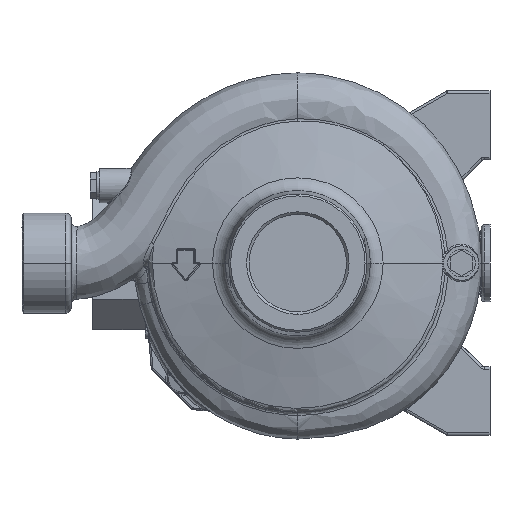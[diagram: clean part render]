
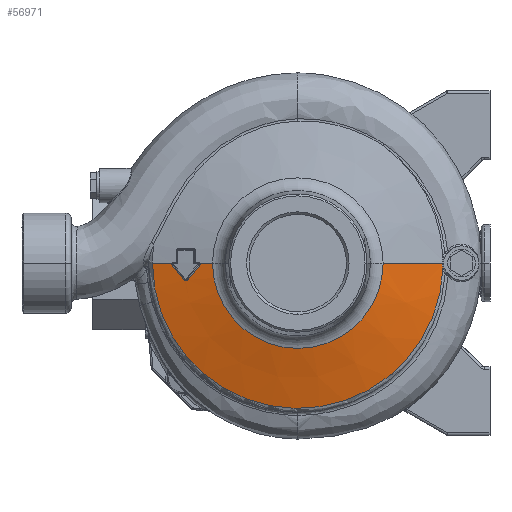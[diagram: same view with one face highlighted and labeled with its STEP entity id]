
A CAD part, left-side view. The second image highlights one B-rep face of the part: STEP entity #56971.
In plain terms, the highlighted conical face has half-angle 75 degrees and reference radius 66.878 mm.
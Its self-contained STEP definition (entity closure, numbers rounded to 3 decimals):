
#45698=CARTESIAN_POINT('',(0.,-83.741,
15.46));
#45699=CARTESIAN_POINT('',(-0.545,-83.741,
15.46));
#45700=CARTESIAN_POINT('',(-1.619,-83.822,
15.435));
#45701=CARTESIAN_POINT('',(-2.667,-84.058,
15.364));
#45702=CARTESIAN_POINT('',(-3.187,-84.216,
15.316));
#45704=CARTESIAN_POINT('',(0.,0.,15.316));
#45705=DIRECTION('',(0.,0.,1.));
#45706=DIRECTION('',(0.,1.,0.));
#45707=AXIS2_PLACEMENT_3D('',#45704,#45705,#45706);
#45709=DIRECTION('',(0.,-0.966,0.259));
#45710=VECTOR('',#45709,11.617);
#45711=CARTESIAN_POINT('',(0.,84.276,
15.316));
#45712=LINE('',#45711,#45710);
#45713=CARTESIAN_POINT('',(0.,73.055,
18.323));
#45714=CARTESIAN_POINT('',(-0.059,73.09,
18.314));
#45715=CARTESIAN_POINT('',(-0.182,73.145,
18.299));
#45716=CARTESIAN_POINT('',(-0.384,73.19,
18.287));
#45717=CARTESIAN_POINT('',(-0.589,73.192,
18.285));
#45718=CARTESIAN_POINT('',(-0.791,73.153,
18.295));
#45719=CARTESIAN_POINT('',(-0.979,73.074,
18.316));
#45720=CARTESIAN_POINT('',(-1.089,72.999,
18.336));
#45721=CARTESIAN_POINT('',(-1.141,72.955,
18.347));
#45723=CARTESIAN_POINT('',(-1.141,72.955,
18.347));
#45724=CARTESIAN_POINT('',(-2.147,72.11,
18.57));
#45725=CARTESIAN_POINT('',(-4.131,70.442,
18.997));
#45726=CARTESIAN_POINT('',(-7.03,68.005,
19.585));
#45727=CARTESIAN_POINT('',(-8.914,66.421,
19.943));
#45728=CARTESIAN_POINT('',(-9.846,65.638,
20.113));
#45730=CARTESIAN_POINT('',(-9.846,65.638,
20.113));
#45731=CARTESIAN_POINT('',(-9.9,65.593,
20.123));
#45732=CARTESIAN_POINT('',(-9.997,65.492,
20.146));
#45733=CARTESIAN_POINT('',(-10.115,65.302,
20.192));
#45734=CARTESIAN_POINT('',(-10.187,65.089,
20.245));
#45735=CARTESIAN_POINT('',(-10.21,64.868,
20.303));
#45736=CARTESIAN_POINT('',(-10.185,64.649,
20.361));
#45737=CARTESIAN_POINT('',(-10.114,64.442,
20.419));
#45738=CARTESIAN_POINT('',(-9.999,64.256,
20.473));
#45739=CARTESIAN_POINT('',(-9.901,64.153,
20.505));
#45740=CARTESIAN_POINT('',(-9.845,64.106,
20.519));
#45742=CARTESIAN_POINT('',(-9.845,64.106,
20.519));
#45743=CARTESIAN_POINT('',(-8.806,63.232,
20.793));
#45744=CARTESIAN_POINT('',(-6.778,61.527,
21.317));
#45745=CARTESIAN_POINT('',(-3.891,59.099,
22.033));
#45746=CARTESIAN_POINT('',(-2.044,57.546,
22.471));
#45747=CARTESIAN_POINT('',(-1.14,56.786,
22.679));
#45749=CARTESIAN_POINT('',(-1.14,56.786,
22.679));
#45750=CARTESIAN_POINT('',(-1.088,56.742,
22.691));
#45751=CARTESIAN_POINT('',(-0.978,56.667,
22.712));
#45752=CARTESIAN_POINT('',(-0.789,56.588,
22.734));
#45753=CARTESIAN_POINT('',(-0.588,56.549,
22.745));
#45754=CARTESIAN_POINT('',(-0.382,56.552,
22.745));
#45755=CARTESIAN_POINT('',(-0.182,56.596,
22.733));
#45756=CARTESIAN_POINT('',(-0.059,56.652,
22.718));
#45757=CARTESIAN_POINT('',(0.,56.686,
22.709));
#45759=DIRECTION('',(0.,-0.966,0.259));
#45760=VECTOR('',#45759,7.46);
#45761=CARTESIAN_POINT('',(0.,56.686,
22.709));
#45762=LINE('',#45761,#45760);
#45763=CARTESIAN_POINT('',(0.,0.,24.64));
#45764=DIRECTION('',(0.,0.,-1.));
#45765=DIRECTION('',(0.,-1.,0.));
#45766=AXIS2_PLACEMENT_3D('',#45763,#45764,#45765);
#45772=CARTESIAN_POINT('',(0.,-83.741,
15.46));
#45774=DIRECTION('',(0.,0.966,0.259));
#45775=VECTOR('',#45774,35.47);
#45776=CARTESIAN_POINT('',(0.,-83.741,
15.46));
#45777=LINE('',#45776,#45775);
#45855=CARTESIAN_POINT('',(0.,73.055,
18.323));
#47954=CARTESIAN_POINT('',(0.,-49.48,24.64));
#47955=CARTESIAN_POINT('',(0.,49.48,24.64));
#47956=VERTEX_POINT('',#47954);
#47957=VERTEX_POINT('',#47955);
#48026=VERTEX_POINT('',#45749);
#48027=VERTEX_POINT('',#45757);
#48052=VERTEX_POINT('',#45855);
#48054=VERTEX_POINT('',#45721);
#48056=VERTEX_POINT('',#45728);
#48058=VERTEX_POINT('',#45740);
#48060=CARTESIAN_POINT('',(0.,84.276,
15.316));
#48061=VERTEX_POINT('',#48060);
#48379=CARTESIAN_POINT('',(-3.187,-84.216,
15.316));
#48381=VERTEX_POINT('',#48379);
#48598=VERTEX_POINT('',#45772);
#56944=CARTESIAN_POINT('',(0.,0.,19.978));
#56945=DIRECTION('',(0.,0.,-1.));
#56946=DIRECTION('',(0.,-1.,0.));
#56947=AXIS2_PLACEMENT_3D('',#56944,#56945,#56946);
#56948=CONICAL_SURFACE('',#56947,66.878,75.);
#56949=ORIENTED_EDGE('',*,*,#56935,.T.);
#56950=ORIENTED_EDGE('',*,*,#56356,.F.);
#56952=ORIENTED_EDGE('',*,*,#56951,.T.);
#56954=ORIENTED_EDGE('',*,*,#56953,.T.);
#56956=ORIENTED_EDGE('',*,*,#56955,.T.);
#56958=ORIENTED_EDGE('',*,*,#56957,.T.);
#56960=ORIENTED_EDGE('',*,*,#56959,.T.);
#56962=ORIENTED_EDGE('',*,*,#56961,.T.);
#56964=ORIENTED_EDGE('',*,*,#56963,.T.);
#56966=ORIENTED_EDGE('',*,*,#56965,.F.);
#56968=ORIENTED_EDGE('',*,*,#56967,.F.);
#56969=EDGE_LOOP('',(#56949,#56950,#56952,#56954,#56956,#56958,#56960,#56962,
#56964,#56966,#56968));
#56970=FACE_OUTER_BOUND('',#56969,.F.);
#45703=B_SPLINE_CURVE_WITH_KNOTS('',3,(#45698,#45699,#45700,#45701,#45702),
.UNSPECIFIED.,.F.,.F.,(4,1,4),(0.,0.5,1.),.UNSPECIFIED.);
#45708=CIRCLE('',#45707,84.276);
#45722=B_SPLINE_CURVE_WITH_KNOTS('',3,(#45713,#45714,#45715,#45716,#45717,
#45718,#45719,#45720,#45721),.UNSPECIFIED.,.F.,.F.,(4,1,1,1,1,1,4),(0.,
0.167,0.333,0.5,0.667,0.833,
1.),.UNSPECIFIED.);
#45729=B_SPLINE_CURVE_WITH_KNOTS('',3,(#45723,#45724,#45725,#45726,#45727,
#45728),.UNSPECIFIED.,.F.,.F.,(4,1,1,4),(0.,0.333,
0.667,1.),.UNSPECIFIED.);
#45741=B_SPLINE_CURVE_WITH_KNOTS('',3,(#45730,#45731,#45732,#45733,#45734,
#45735,#45736,#45737,#45738,#45739,#45740),.UNSPECIFIED.,.F.,.F.,(4,1,1,1,1,1,1,
1,4),(0.,0.125,0.25,0.375,0.5,0.625,0.75,0.875,1.),
.UNSPECIFIED.);
#45748=B_SPLINE_CURVE_WITH_KNOTS('',3,(#45742,#45743,#45744,#45745,#45746,
#45747),.UNSPECIFIED.,.F.,.F.,(4,1,1,4),(0.,0.333,
0.667,1.),.UNSPECIFIED.);
#45758=B_SPLINE_CURVE_WITH_KNOTS('',3,(#45749,#45750,#45751,#45752,#45753,
#45754,#45755,#45756,#45757),.UNSPECIFIED.,.F.,.F.,(4,1,1,1,1,1,4),(0.,
0.167,0.333,0.5,0.667,0.833,
1.),.UNSPECIFIED.);
#45767=CIRCLE('',#45766,49.48);
#56356=EDGE_CURVE('',#48061,#48381,#45708,.T.);
#56935=EDGE_CURVE('',#48598,#48381,#45703,.T.);
#56951=EDGE_CURVE('',#48061,#48052,#45712,.T.);
#56953=EDGE_CURVE('',#48052,#48054,#45722,.T.);
#56955=EDGE_CURVE('',#48054,#48056,#45729,.T.);
#56957=EDGE_CURVE('',#48056,#48058,#45741,.T.);
#56959=EDGE_CURVE('',#48058,#48026,#45748,.T.);
#56961=EDGE_CURVE('',#48026,#48027,#45758,.T.);
#56963=EDGE_CURVE('',#48027,#47957,#45762,.T.);
#56965=EDGE_CURVE('',#47956,#47957,#45767,.T.);
#56967=EDGE_CURVE('',#48598,#47956,#45777,.T.);
#56971=ADVANCED_FACE('',(#56970),#56948,.T.);
